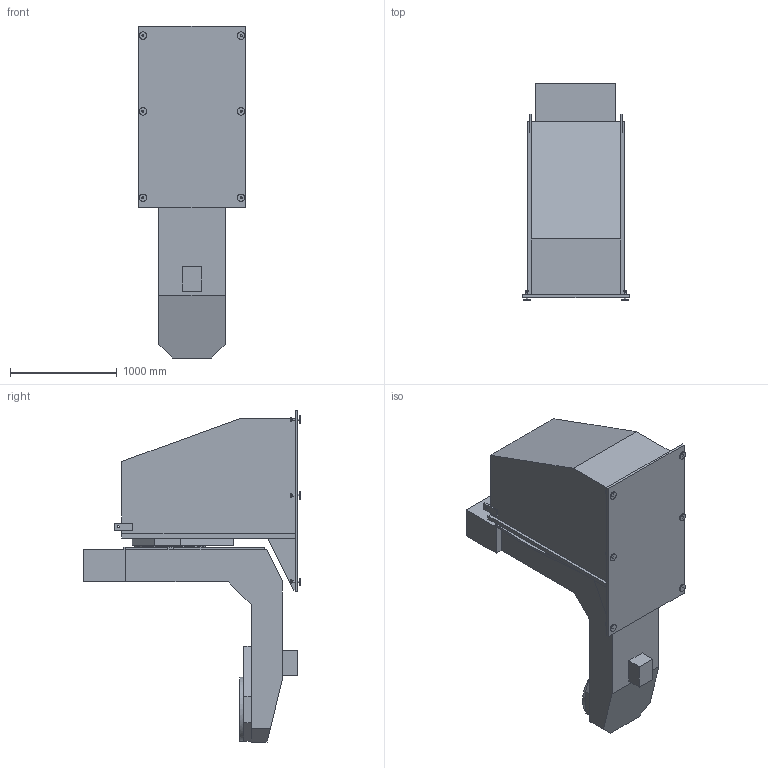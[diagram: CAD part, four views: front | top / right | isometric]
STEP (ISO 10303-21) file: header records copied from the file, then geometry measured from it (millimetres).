
FILE_DESCRIPTION((''),'2;1');
FILE_NAME('S:\Manipulatorer\Produkter\Layout symboler\MT1\MT1-1500 S2N\215172-100 MT1-1500 S2N (STEP).stp','2008-01-23T15:12:34',('Kristian'),(''),'Autodesk Inventor 2008','Autodesk Inventor 2008','');
FILE_SCHEMA(('AUTOMOTIVE_DESIGN { 1 0 10303 214 1 1 1 1 }'));
Length unit declared in the file: millimetre
Products named in the file (4): 215172-100 MT1-1500 S2N (STEP); 114823-100 X-enhet (low-res); 114827-100 Arm kompl. MT1-1500 S2N (No details); 114827-100 Arm kompl. MT1-1500 S2N (low-res)
Assembly tree (3 placements, depth 3):
  215172-100 MT1-1500 S2N (STEP)
    114823-100 X-enhet (low-res)
    114827-100 Arm kompl. MT1-1500 S2N (No details)
      114827-100 Arm kompl. MT1-1500 S2N (low-res)
Bounding box: 1000 x 2036 x 3112.5 mm (x, y, z)
Volume: 2161054136.3 mm3; surface area: 16807219.4 mm2
Topology: 2 solids, 2 shells, 223 faces, 509 edges, 331 vertices
Faces by surface type: plane 163, cylinder 36, cone 24
Full cylindrical faces by diameter (mm): 20 x18, 22 x2, 28.19 x6, 70 x6, 600 x1, 671 x1
Entity records: 6559 total; most frequent: CARTESIAN_POINT 1426, DIRECTION 962, ORIENTED_EDGE 896, EDGE_CURVE 448, AXIS2_PLACEMENT_3D 332, VERTEX_POINT 316, EDGE_LOOP 314, VECTOR 298
